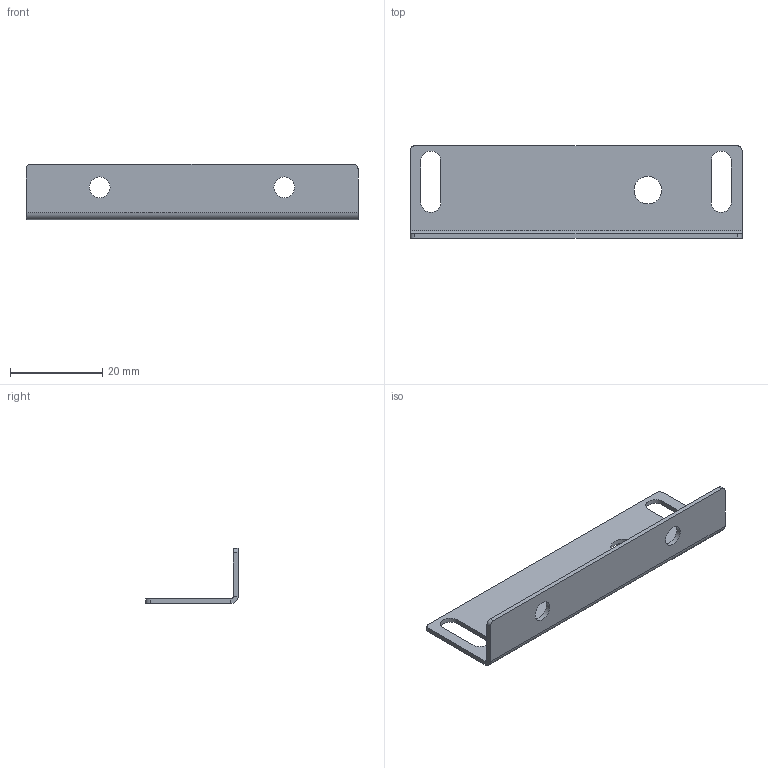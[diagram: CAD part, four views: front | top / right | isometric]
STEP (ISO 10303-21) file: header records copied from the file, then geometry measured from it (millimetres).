
FILE_DESCRIPTION (( 'STEP AP203' ), '1' );
FILE_NAME ('PBULD00100.step', '2024-11-08T21:21:41', ( '' ), ( '' ), 'SwSTEP 2.0', 'SolidWorks 2022', '' );
FILE_SCHEMA (( 'CONFIG_CONTROL_DESIGN' ));
Length unit declared in the file: millimetre
Products named in the file (1): PBULD00100
Bounding box: 72 x 20.02 x 12 mm (x, y, z)
Volume: 2070.9 mm3; surface area: 4380.4 mm2
Topology: 1 solids, 1 shells, 29 faces, 74 edges, 47 vertices
Faces by surface type: plane 16, cylinder 13
Full cylindrical faces by diameter (mm): 4.5 x2, 6 x1
Entity records: 951 total; most frequent: DIRECTION 156, CARTESIAN_POINT 146, ORIENTED_EDGE 140, EDGE_CURVE 70, AXIS2_PLACEMENT_3D 56, VERTEX_POINT 46, VECTOR 44, LINE 44
